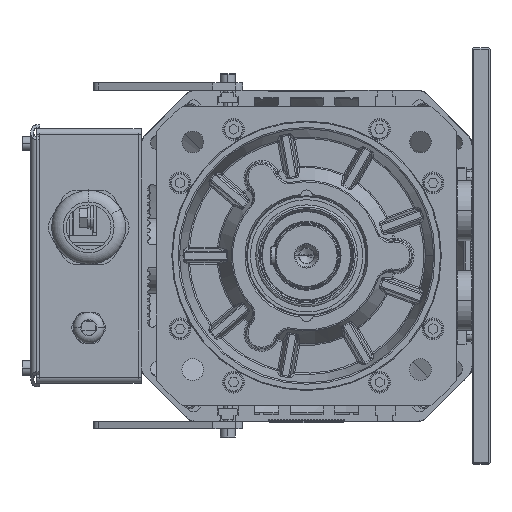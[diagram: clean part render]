
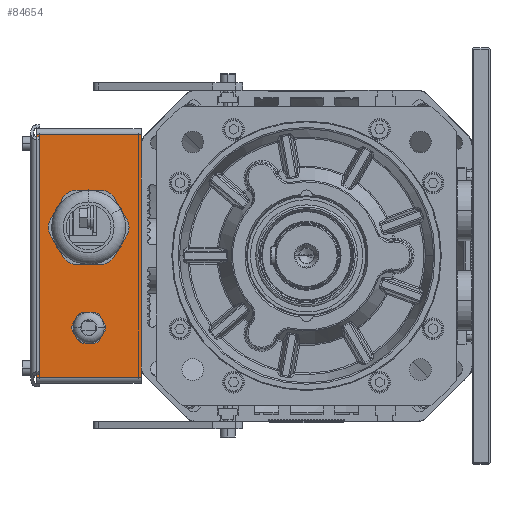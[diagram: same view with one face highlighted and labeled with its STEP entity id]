
A CAD part, left-side view. The second image highlights one B-rep face of the part: STEP entity #84654.
In plain terms, the highlighted planar face has unit normal (-1, 0, 0).
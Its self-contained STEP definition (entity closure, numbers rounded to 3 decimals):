
#82470=DIRECTION('',(0.,0.,1.));
#82471=VECTOR('',#82470,162.);
#82472=CARTESIAN_POINT('',(140.,110.5,-81.));
#82473=LINE('',#82472,#82471);
#82747=CARTESIAN_POINT('',(140.,145.5,-48.));
#82748=DIRECTION('',(-1.,0.,0.));
#82749=DIRECTION('',(0.,1.,0.));
#82750=AXIS2_PLACEMENT_3D('',#82747,#82748,#82749);
#82752=CARTESIAN_POINT('',(140.,145.5,-48.));
#82753=DIRECTION('',(-1.,0.,0.));
#82754=DIRECTION('',(0.,-1.,0.));
#82755=AXIS2_PLACEMENT_3D('',#82752,#82753,#82754);
#82757=CARTESIAN_POINT('',(140.,145.5,19.));
#82758=DIRECTION('',(-1.,0.,0.));
#82759=DIRECTION('',(0.,1.,0.));
#82760=AXIS2_PLACEMENT_3D('',#82757,#82758,#82759);
#82762=CARTESIAN_POINT('',(140.,145.5,19.));
#82763=DIRECTION('',(-1.,0.,0.));
#82764=DIRECTION('',(0.,-1.,0.));
#82765=AXIS2_PLACEMENT_3D('',#82762,#82763,#82764);
#82767=DIRECTION('',(0.,0.,1.));
#82768=VECTOR('',#82767,162.);
#82769=CARTESIAN_POINT('',(140.,180.5,-81.));
#82770=LINE('',#82769,#82768);
#83697=DIRECTION('',(0.,-1.,0.));
#83698=VECTOR('',#83697,70.);
#83699=CARTESIAN_POINT('',(140.,180.5,-81.));
#83700=LINE('',#83699,#83698);
#83717=DIRECTION('',(0.,1.,0.));
#83718=VECTOR('',#83717,70.);
#83719=CARTESIAN_POINT('',(140.,110.5,81.));
#83720=LINE('',#83719,#83718);
#84037=CARTESIAN_POINT('',(140.,155.5,-48.));
#84038=CARTESIAN_POINT('',(140.,135.5,-48.));
#84039=VERTEX_POINT('',#84037);
#84040=VERTEX_POINT('',#84038);
#84041=CARTESIAN_POINT('',(140.,170.5,19.));
#84042=CARTESIAN_POINT('',(140.,120.5,19.));
#84043=VERTEX_POINT('',#84041);
#84044=VERTEX_POINT('',#84042);
#84189=CARTESIAN_POINT('',(140.,110.5,-81.));
#84191=VERTEX_POINT('',#84189);
#84202=CARTESIAN_POINT('',(140.,110.5,81.));
#84204=VERTEX_POINT('',#84202);
#84237=CARTESIAN_POINT('',(140.,180.5,81.));
#84239=VERTEX_POINT('',#84237);
#84250=CARTESIAN_POINT('',(140.,180.5,-81.));
#84252=VERTEX_POINT('',#84250);
#84629=CARTESIAN_POINT('',(140.,110.5,-85.));
#84630=DIRECTION('',(-1.,0.,0.));
#84631=DIRECTION('',(0.,0.,1.));
#84632=AXIS2_PLACEMENT_3D('',#84629,#84630,#84631);
#84633=PLANE('',#84632);
#84635=ORIENTED_EDGE('',*,*,#84634,.F.);
#84636=ORIENTED_EDGE('',*,*,#84436,.F.);
#84638=ORIENTED_EDGE('',*,*,#84637,.F.);
#84639=ORIENTED_EDGE('',*,*,#84496,.T.);
#84640=EDGE_LOOP('',(#84635,#84636,#84638,#84639));
#84641=FACE_OUTER_BOUND('',#84640,.F.);
#84643=ORIENTED_EDGE('',*,*,#84642,.T.);
#84645=ORIENTED_EDGE('',*,*,#84644,.T.);
#84646=EDGE_LOOP('',(#84643,#84645));
#84647=FACE_BOUND('',#84646,.F.);
#84649=ORIENTED_EDGE('',*,*,#84648,.T.);
#84651=ORIENTED_EDGE('',*,*,#84650,.T.);
#84652=EDGE_LOOP('',(#84649,#84651));
#84653=FACE_BOUND('',#84652,.F.);
#84654=ADVANCED_FACE('',(#84641,#84647,#84653),#84633,.T.);
#82751=CIRCLE('',#82750,10.);
#82756=CIRCLE('',#82755,10.);
#82761=CIRCLE('',#82760,25.);
#82766=CIRCLE('',#82765,25.);
#84436=EDGE_CURVE('',#84191,#84204,#82473,.T.);
#84496=EDGE_CURVE('',#84252,#84239,#82770,.T.);
#84634=EDGE_CURVE('',#84204,#84239,#83720,.T.);
#84637=EDGE_CURVE('',#84252,#84191,#83700,.T.);
#84642=EDGE_CURVE('',#84043,#84044,#82761,.T.);
#84644=EDGE_CURVE('',#84044,#84043,#82766,.T.);
#84648=EDGE_CURVE('',#84039,#84040,#82751,.T.);
#84650=EDGE_CURVE('',#84040,#84039,#82756,.T.);
